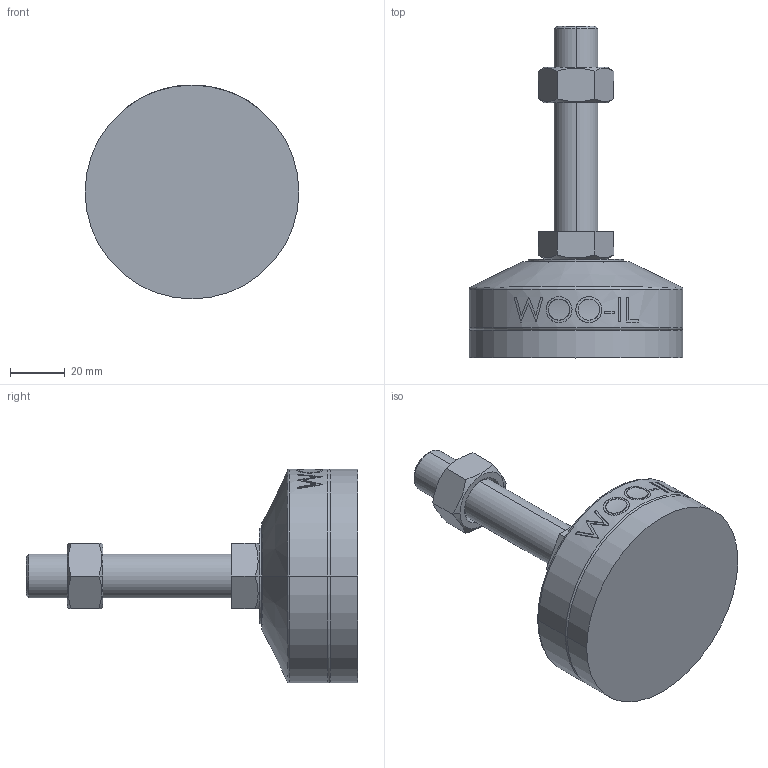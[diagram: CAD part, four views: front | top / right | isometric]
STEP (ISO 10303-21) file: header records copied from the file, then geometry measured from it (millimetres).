
FILE_DESCRIPTION (( 'STEP AP214' ), '1' );
FILE_NAME ('MFZR78-M16-75.step', '2021-03-29T06:58:16', ( '' ), ( '' ), 'SwSTEP 2.0', 'SolidWorks 2019', '' );
FILE_SCHEMA (( 'AUTOMOTIVE_DESIGN' ));
Length unit declared in the file: millimetre
Products named in the file (2): MFZR78-M16-75
Bounding box: 78 x 121 x 78 mm (x, y, z)
Volume: 172941.9 mm3; surface area: 33481.4 mm2
Topology: 4 solids, 4 shells, 103 faces, 235 edges, 150 vertices
Faces by surface type: plane 49, cylinder 18, bspline 16, cone 14, torus 6
Entity records: 4499 total; most frequent: CARTESIAN_POINT 2226, ORIENTED_EDGE 470, DIRECTION 417, EDGE_CURVE 235, AXIS2_PLACEMENT_3D 159, VERTEX_POINT 150, EDGE_LOOP 115, ADVANCED_FACE 103
